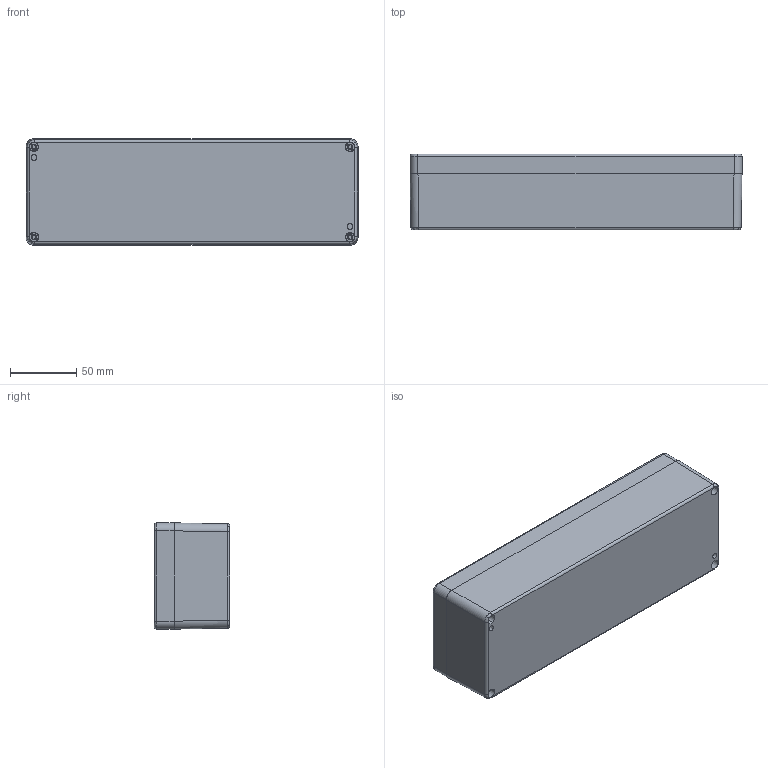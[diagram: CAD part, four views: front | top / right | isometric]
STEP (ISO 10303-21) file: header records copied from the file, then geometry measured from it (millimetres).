
FILE_DESCRIPTION((''),'2;1');
FILE_NAME('1190000000_ASM','2022-08-01T11:35:32',('silke.otte'),(''),'CREO PARAMETRIC BY PTC INC, 2018300','CREO PARAMETRIC BY PTC INC, 2018300','');
FILE_SCHEMA(('AUTOMOTIVE_DESIGN { 1 0 10303 214 1 1 1 1 }'));
Length unit declared in the file: millimetre
Products named in the file (11): 9301047000_AF0; 9261104000; 9601352000_ASM; 9601555000_ASM; 9302047000_AF0; 9261116000; 9611161000_ASM; 9611314000_DICHTUNG; 9611314000_ASM; 9261013000; 1190000000_ASM
Assembly tree (14 placements, depth 4):
  1190000000_ASM
    9601555000_ASM
      9601352000_ASM
        9301047000_AF0
        9261104000  x2
    9611314000_ASM
      9611161000_ASM
        9302047000_AF0
        9261116000
      9611314000_DICHTUNG
    9261013000  x4
Bounding box: 250 x 57 x 80 mm (x, y, z)
Volume: 267621.6 mm3; surface area: 169204.2 mm2
Topology: 13 solids, 31 shells, 1160 faces, 3025 edges, 1919 vertices
Faces by surface type: plane 534, cylinder 353, cone 176, torus 48, bspline 42, sphere 7
Entity records: 50448 total; most frequent: CARTESIAN_POINT 17313, DIRECTION 4556, ORIENTED_EDGE 4550, PRESENTATION_STYLE_ASSIGNMENT 2331, STYLED_ITEM 2326, CURVE_STYLE 2306, EDGE_CURVE 2303, AXIS2_PLACEMENT_3D 1713
